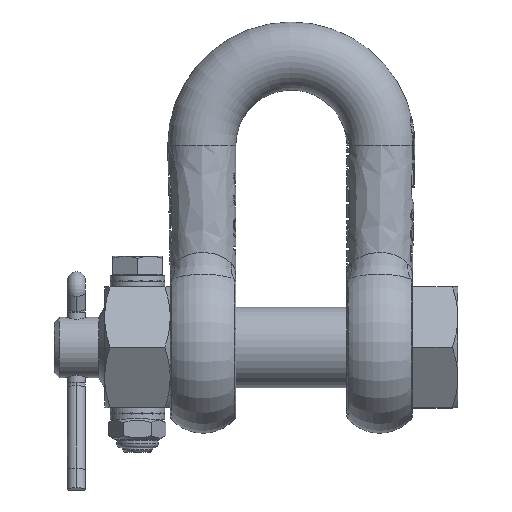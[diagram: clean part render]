
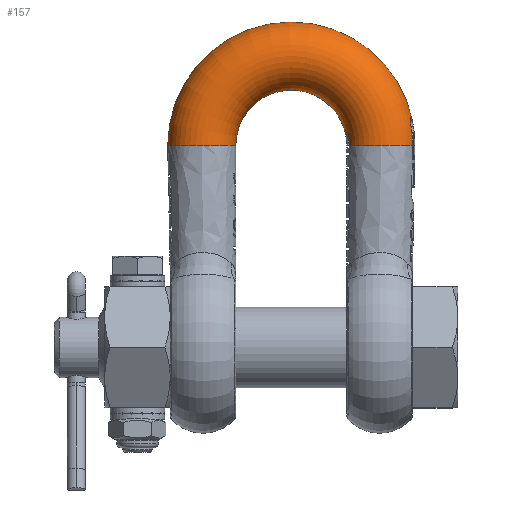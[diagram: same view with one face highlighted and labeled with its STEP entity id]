
A CAD part, top view. The second image highlights one B-rep face of the part: STEP entity #157.
In plain terms, the highlighted toroidal (fillet/blend) face has major radius 17.75 mm and minor radius 6.75 mm.
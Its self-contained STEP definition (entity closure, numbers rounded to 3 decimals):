
#157=ADVANCED_FACE('',(#1015),#1016,.T.);
#1015=FACE_OUTER_BOUND('',#3768,.T.);
#1016=TOROIDAL_SURFACE('',#3769,17.75,6.75);
#3768=EDGE_LOOP('',(#9651,#9652,#9653,#9654,#9655,#9656,#9657,#9658,#9659,#9660,#9661));
#3769=AXIS2_PLACEMENT_3D('',#9662,#9663,#9664);
#9651=ORIENTED_EDGE('',*,*,#15905,.T.);
#9652=ORIENTED_EDGE('',*,*,#15887,.T.);
#9653=ORIENTED_EDGE('',*,*,#15915,.T.);
#9654=ORIENTED_EDGE('',*,*,#16039,.T.);
#9655=ORIENTED_EDGE('',*,*,#16040,.T.);
#9656=ORIENTED_EDGE('',*,*,#15725,.F.);
#9657=ORIENTED_EDGE('',*,*,#16041,.T.);
#9658=ORIENTED_EDGE('',*,*,#16042,.T.);
#9659=ORIENTED_EDGE('',*,*,#15948,.T.);
#9660=ORIENTED_EDGE('',*,*,#16043,.T.);
#9661=ORIENTED_EDGE('',*,*,#16044,.T.);
#9662=CARTESIAN_POINT('',(0.0,40.0,0.0));
#9663=DIRECTION('',(0.0,0.0,1.0));
#9664=DIRECTION('',(1.0,0.0,0.0));
#15725=EDGE_CURVE('',#17980,#17982,#17983,.T.);
#15887=EDGE_CURVE('',#18297,#18299,#18301,.T.);
#15905=EDGE_CURVE('',#18335,#18297,#18336,.T.);
#15915=EDGE_CURVE('',#18299,#18353,#18355,.T.);
#15948=EDGE_CURVE('',#18415,#18413,#18416,.T.);
#16039=EDGE_CURVE('',#18353,#18577,#18578,.T.);
#16040=EDGE_CURVE('',#18577,#17982,#18579,.T.);
#16041=EDGE_CURVE('',#17980,#18580,#18581,.T.);
#16042=EDGE_CURVE('',#18580,#18415,#18582,.T.);
#16043=EDGE_CURVE('',#18413,#18583,#18584,.T.);
#16044=EDGE_CURVE('',#18583,#18335,#18585,.T.);
#17980=VERTEX_POINT('',#22048);
#17982=VERTEX_POINT('',#22055);
#17983=CIRCLE('',#22056,6.75);
#18297=VERTEX_POINT('',#23635);
#18299=VERTEX_POINT('',#23637);
#18301=CIRCLE('',#23639,6.75);
#18335=VERTEX_POINT('',#23752);
#18336=CIRCLE('',#23753,24.5);
#18353=VERTEX_POINT('',#23796);
#18355=CIRCLE('',#23815,11.0);
#18413=VERTEX_POINT('',#23948);
#18415=VERTEX_POINT('',#23951);
#18416=B_SPLINE_CURVE_WITH_KNOTS('',3,(#23952,#23953,#23954,#23955,#23956,#23957,#23958,#23959,#23960,#23961,#23962,#23963),.UNSPECIFIED.,.F.,.F.,(4,2,2,2,2,4),(0.,0.,0.001,0.001,0.002,0.003),.UNSPECIFIED.);
#18577=VERTEX_POINT('',#24689);
#18578=B_SPLINE_CURVE_WITH_KNOTS('',3,(#24690,#24691,#24692,#24693,#24694,#24695,#24696,#24697,#24698,#24699,#24700,#24701,#24702,#24703,#24704,#24705,#24706,#24707),.UNSPECIFIED.,.F.,.F.,(4,2,2,2,2,2,2,2,4),(0.,0.,0.001,0.001,0.002,0.002,0.003,0.003,0.004),.UNSPECIFIED.);
#18579=CIRCLE('',#24708,11.48);
#18580=VERTEX_POINT('',#24709);
#18581=CIRCLE('',#24710,24.021);
#18582=B_SPLINE_CURVE_WITH_KNOTS('',3,(#24711,#24712,#24713,#24714,#24715,#24716),.UNSPECIFIED.,.F.,.F.,(4,2,4),(0.,0.001,0.001),.UNSPECIFIED.);
#18583=VERTEX_POINT('',#24717);
#18584=B_SPLINE_CURVE_WITH_KNOTS('',3,(#24718,#24719,#24720,#24721,#24722,#24723,#24724,#24725,#24726,#24727,#24728,#24729),.UNSPECIFIED.,.F.,.F.,(4,2,2,2,2,4),(0.,0.,0.001,0.001,0.002,0.003),.UNSPECIFIED.);
#18585=B_SPLINE_CURVE_WITH_KNOTS('',3,(#24730,#24731,#24732,#24733,#24734,#24735),.UNSPECIFIED.,.F.,.F.,(4,2,4),(0.,0.001,0.001),.UNSPECIFIED.);
#22048=CARTESIAN_POINT('',(24.022,40.0,2.496));
#22055=CARTESIAN_POINT('',(11.48,40.0,2.5));
#22056=AXIS2_PLACEMENT_3D('',#32376,#32377,#32378);
#23635=CARTESIAN_POINT('',(-24.5,40.0,0.));
#23637=CARTESIAN_POINT('',(-11.0,40.0,0.));
#23639=AXIS2_PLACEMENT_3D('',#32385,#32386,#32387);
#23752=CARTESIAN_POINT('',(24.021,44.819,0.));
#23753=AXIS2_PLACEMENT_3D('',#32394,#32395,#32396);
#23796=CARTESIAN_POINT('',(10.607,42.915,0.));
#23815=AXIS2_PLACEMENT_3D('',#32409,#32410,#32411);
#23948=CARTESIAN_POINT('',(23.736,45.641,1.171));
#23951=CARTESIAN_POINT('',(23.593,44.844,2.33));
#23952=CARTESIAN_POINT('',(23.593,44.844,2.33));
#23953=CARTESIAN_POINT('',(23.586,44.957,2.288));
#23954=CARTESIAN_POINT('',(23.585,45.062,2.23));
#23955=CARTESIAN_POINT('',(23.593,45.253,2.083));
#23956=CARTESIAN_POINT('',(23.603,45.337,1.997));
#23957=CARTESIAN_POINT('',(23.642,45.547,1.706));
#23958=CARTESIAN_POINT('',(23.682,45.628,1.472));
#23959=CARTESIAN_POINT('',(23.767,45.652,1.002));
#23960=CARTESIAN_POINT('',(23.812,45.594,0.762));
#23961=CARTESIAN_POINT('',(23.901,45.359,0.353));
#23962=CARTESIAN_POINT('',(23.945,45.184,0.184));
#23963=CARTESIAN_POINT('',(23.99,44.973,0.074));
#24689=CARTESIAN_POINT('',(11.435,41.012,2.5));
#24690=CARTESIAN_POINT('',(10.607,42.915,-0.027));
#24691=CARTESIAN_POINT('',(10.607,42.913,0.128));
#24692=CARTESIAN_POINT('',(10.613,42.909,0.283));
#24693=CARTESIAN_POINT('',(10.641,42.881,0.589));
#24694=CARTESIAN_POINT('',(10.662,42.859,0.74));
#24695=CARTESIAN_POINT('',(10.72,42.795,1.038));
#24696=CARTESIAN_POINT('',(10.757,42.754,1.185));
#24697=CARTESIAN_POINT('',(10.84,42.65,1.464));
#24698=CARTESIAN_POINT('',(10.887,42.587,1.597));
#24699=CARTESIAN_POINT('',(10.99,42.439,1.851));
#24700=CARTESIAN_POINT('',(11.045,42.353,1.969));
#24701=CARTESIAN_POINT('',(11.155,42.149,2.176));
#24702=CARTESIAN_POINT('',(11.209,42.03,2.263));
#24703=CARTESIAN_POINT('',(11.301,41.765,2.39));
#24704=CARTESIAN_POINT('',(11.34,41.618,2.434));
#24705=CARTESIAN_POINT('',(11.4,41.321,2.489));
#24706=CARTESIAN_POINT('',(11.421,41.167,2.497));
#24707=CARTESIAN_POINT('',(11.435,41.012,2.5));
#24708=AXIS2_PLACEMENT_3D('',#32532,#32533,#32534);
#24709=CARTESIAN_POINT('',(23.697,43.938,2.496));
#24710=AXIS2_PLACEMENT_3D('',#32535,#32536,#32537);
#24711=CARTESIAN_POINT('',(23.697,43.938,2.496));
#24712=CARTESIAN_POINT('',(23.671,44.091,2.496));
#24713=CARTESIAN_POINT('',(23.65,44.243,2.483));
#24714=CARTESIAN_POINT('',(23.615,44.546,2.428));
#24715=CARTESIAN_POINT('',(23.602,44.698,2.386));
#24716=CARTESIAN_POINT('',(23.593,44.844,2.33));
#24717=CARTESIAN_POINT('',(23.99,44.973,0.074));
#24718=CARTESIAN_POINT('',(23.593,44.844,2.33));
#24719=CARTESIAN_POINT('',(23.586,44.957,2.288));
#24720=CARTESIAN_POINT('',(23.585,45.062,2.23));
#24721=CARTESIAN_POINT('',(23.593,45.253,2.083));
#24722=CARTESIAN_POINT('',(23.603,45.337,1.997));
#24723=CARTESIAN_POINT('',(23.642,45.547,1.706));
#24724=CARTESIAN_POINT('',(23.682,45.628,1.472));
#24725=CARTESIAN_POINT('',(23.767,45.652,1.002));
#24726=CARTESIAN_POINT('',(23.812,45.594,0.762));
#24727=CARTESIAN_POINT('',(23.901,45.359,0.353));
#24728=CARTESIAN_POINT('',(23.945,45.184,0.184));
#24729=CARTESIAN_POINT('',(23.99,44.973,0.074));
#24730=CARTESIAN_POINT('',(23.99,44.973,0.074));
#24731=CARTESIAN_POINT('',(24.029,44.789,-0.022));
#24732=CARTESIAN_POINT('',(24.065,44.598,-0.094));
#24733=CARTESIAN_POINT('',(24.136,44.199,-0.193));
#24734=CARTESIAN_POINT('',(24.17,43.991,-0.218));
#24735=CARTESIAN_POINT('',(24.203,43.784,-0.218));
#32376=CARTESIAN_POINT('',(17.75,40.0,0.0));
#32377=DIRECTION('',(0.,-1.0,-0.0));
#32378=DIRECTION('',(0.0,0.0,-1.0));
#32385=CARTESIAN_POINT('',(-17.75,40.0,0.0));
#32386=DIRECTION('',(0.,1.0,0.0));
#32387=DIRECTION('',(0.0,0.0,-1.0));
#32394=CARTESIAN_POINT('',(0.0,40.0,0.));
#32395=DIRECTION('',(0.0,0.0,1.0));
#32396=DIRECTION('',(1.0,0.0,0.0));
#32409=CARTESIAN_POINT('',(0.0,40.0,0.));
#32410=DIRECTION('',(0.0,0.0,-1.0));
#32411=DIRECTION('',(1.0,0.0,0.0));
#32532=CARTESIAN_POINT('',(0.,40.0,2.5));
#32533=DIRECTION('',(0.,0.,-1.0));
#32534=DIRECTION('',(0.0,1.0,0.));
#32535=CARTESIAN_POINT('',(0.,40.0,2.496));
#32536=DIRECTION('',(0.,0.,1.0));
#32537=DIRECTION('',(0.0,-1.0,0.));
